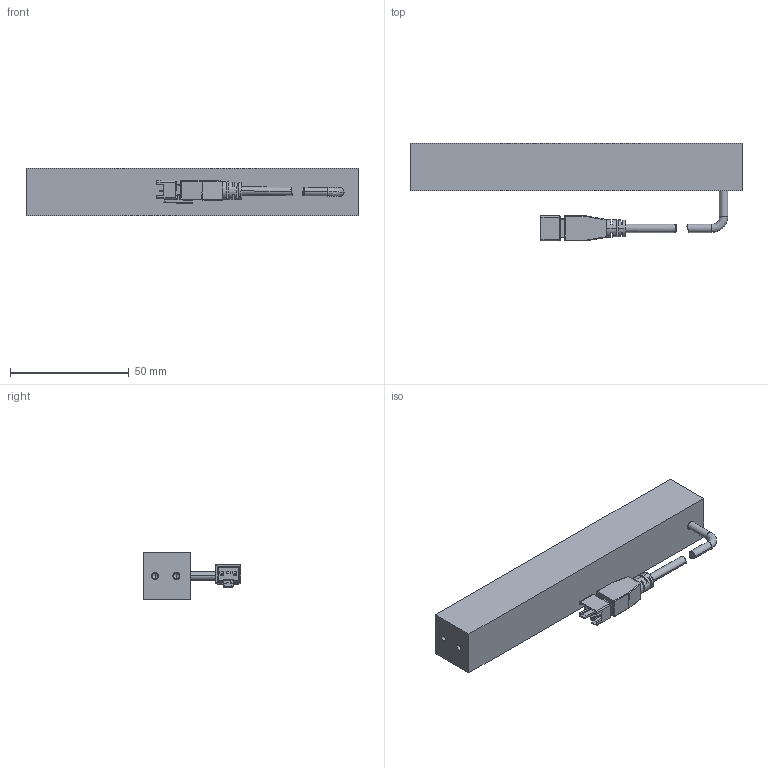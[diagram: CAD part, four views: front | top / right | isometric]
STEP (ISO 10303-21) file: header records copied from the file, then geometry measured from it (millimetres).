
FILE_DESCRIPTION (( 'STEP AP203' ), '1' );
FILE_NAME ('06 MV-LLDS-140-20-IR940 光源_3d尺寸图（STP）.stp', '2019-09-19T08:31:57', ( '' ), ( '' ), 'SwSTEP 2.0', 'SolidWorks 2016', '' );
FILE_SCHEMA (( 'CONFIG_CONTROL_DESIGN' ));
Length unit declared in the file: millimetre
Products named in the file (5): WAIKE; BODY_12; LINE_TOU; ASSY_ASM; 06 MV-LLDS-140-20-IR940 光源_3d尺寸图（STP）
Assembly tree (4 placements, depth 3):
  06 MV-LLDS-140-20-IR940 光源_3d尺寸图（STP）
    WAIKE
    ASSY_ASM
      LINE_TOU
      BODY_12
Bounding box: 140 x 41.17 x 20 mm (x, y, z)
Volume: 2492.7 mm3; surface area: 14945.9 mm2
Topology: 2 solids, 7 shells, 271 faces, 691 edges, 423 vertices
Faces by surface type: plane 143, cylinder 84, bspline 28, cone 10, torus 6
Entity records: 9338 total; most frequent: CARTESIAN_POINT 2502, ORIENTED_EDGE 1318, DIRECTION 1305, EDGE_CURVE 667, AXIS2_PLACEMENT_3D 446, VERTEX_POINT 423, VECTOR 413, LINE 413
